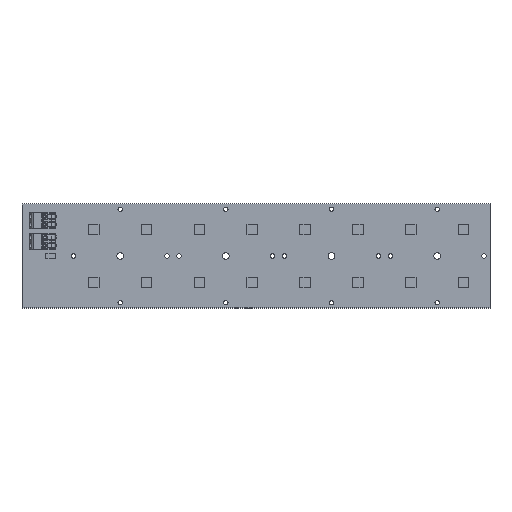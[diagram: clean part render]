
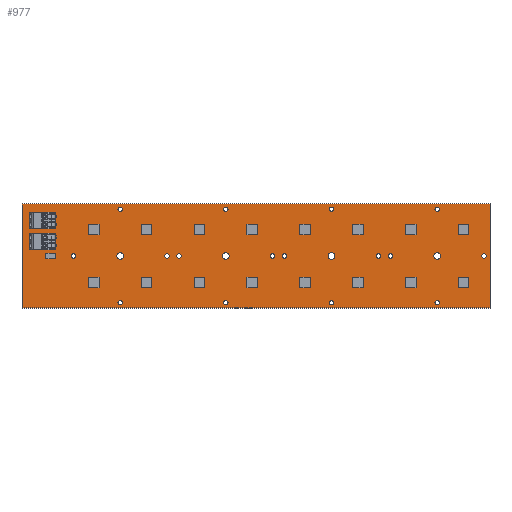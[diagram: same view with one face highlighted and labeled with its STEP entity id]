
A CAD part, top view. The second image highlights one B-rep face of the part: STEP entity #977.
In plain terms, the highlighted planar face has unit normal (0, 0, 1).
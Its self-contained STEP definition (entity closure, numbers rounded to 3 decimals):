
#128 = VERTEX_POINT('',#129);
#129 = CARTESIAN_POINT('',(0.,0.,1.6));
#135 = EDGE_CURVE('',#128,#136,#138,.T.);
#136 = VERTEX_POINT('',#137);
#137 = CARTESIAN_POINT('',(0.,50.,1.6));
#138 = LINE('',#139,#140);
#139 = CARTESIAN_POINT('',(0.,0.,1.6));
#140 = VECTOR('',#141,1.);
#141 = DIRECTION('',(0.,1.,0.));
#166 = EDGE_CURVE('',#136,#167,#169,.T.);
#167 = VERTEX_POINT('',#168);
#168 = CARTESIAN_POINT('',(225.,50.,1.6));
#169 = LINE('',#170,#171);
#170 = CARTESIAN_POINT('',(0.,50.,1.6));
#171 = VECTOR('',#172,1.);
#172 = DIRECTION('',(1.,0.,0.));
#197 = EDGE_CURVE('',#167,#198,#200,.T.);
#198 = VERTEX_POINT('',#199);
#199 = CARTESIAN_POINT('',(225.,0.,1.6));
#200 = LINE('',#201,#202);
#201 = CARTESIAN_POINT('',(225.,50.,1.6));
#202 = VECTOR('',#203,1.);
#203 = DIRECTION('',(0.,-1.,0.));
#228 = EDGE_CURVE('',#198,#128,#229,.T.);
#229 = LINE('',#230,#231);
#230 = CARTESIAN_POINT('',(225.,0.,1.6));
#231 = VECTOR('',#232,1.);
#232 = DIRECTION('',(-1.,0.,0.));
#252 = VERTEX_POINT('',#253);
#253 = CARTESIAN_POINT('',(48.25,2.5,1.6));
#259 = EDGE_CURVE('',#252,#252,#260,.T.);
#260 = CIRCLE('',#261,1.05);
#261 = AXIS2_PLACEMENT_3D('',#262,#263,#264);
#262 = CARTESIAN_POINT('',(47.2,2.5,1.6));
#263 = DIRECTION('',(0.,0.,1.));
#264 = DIRECTION('',(1.,0.,-0.));
#285 = VERTEX_POINT('',#286);
#286 = CARTESIAN_POINT('',(25.75,25.,1.6));
#292 = EDGE_CURVE('',#285,#285,#293,.T.);
#293 = CIRCLE('',#294,1.05);
#294 = AXIS2_PLACEMENT_3D('',#295,#296,#297);
#295 = CARTESIAN_POINT('',(24.7,25.,1.6));
#296 = DIRECTION('',(0.,0.,1.));
#297 = DIRECTION('',(1.,0.,-0.));
#318 = VERTEX_POINT('',#319);
#319 = CARTESIAN_POINT('',(99.05,2.5,1.6));
#325 = EDGE_CURVE('',#318,#318,#326,.T.);
#326 = CIRCLE('',#327,1.05);
#327 = AXIS2_PLACEMENT_3D('',#328,#329,#330);
#328 = CARTESIAN_POINT('',(98.,2.5,1.6));
#329 = DIRECTION('',(0.,0.,1.));
#330 = DIRECTION('',(1.,0.,-0.));
#351 = VERTEX_POINT('',#352);
#352 = CARTESIAN_POINT('',(48.8,25.,1.6));
#358 = EDGE_CURVE('',#351,#351,#359,.T.);
#359 = CIRCLE('',#360,1.6);
#360 = AXIS2_PLACEMENT_3D('',#361,#362,#363);
#361 = CARTESIAN_POINT('',(47.2,25.,1.6));
#362 = DIRECTION('',(0.,0.,1.));
#363 = DIRECTION('',(1.,0.,-0.));
#384 = VERTEX_POINT('',#385);
#385 = CARTESIAN_POINT('',(99.6,25.,1.6));
#391 = EDGE_CURVE('',#384,#384,#392,.T.);
#392 = CIRCLE('',#393,1.6);
#393 = AXIS2_PLACEMENT_3D('',#394,#395,#396);
#394 = CARTESIAN_POINT('',(98.,25.,1.6));
#395 = DIRECTION('',(0.,0.,1.));
#396 = DIRECTION('',(1.,0.,-0.));
#417 = VERTEX_POINT('',#418);
#418 = CARTESIAN_POINT('',(70.75,25.,1.6));
#424 = EDGE_CURVE('',#417,#417,#425,.T.);
#425 = CIRCLE('',#426,1.05);
#426 = AXIS2_PLACEMENT_3D('',#427,#428,#429);
#427 = CARTESIAN_POINT('',(69.7,25.,1.6));
#428 = DIRECTION('',(0.,0.,1.));
#429 = DIRECTION('',(1.,0.,-0.));
#450 = VERTEX_POINT('',#451);
#451 = CARTESIAN_POINT('',(48.25,47.5,1.6));
#457 = EDGE_CURVE('',#450,#450,#458,.T.);
#458 = CIRCLE('',#459,1.05);
#459 = AXIS2_PLACEMENT_3D('',#460,#461,#462);
#460 = CARTESIAN_POINT('',(47.2,47.5,1.6));
#461 = DIRECTION('',(0.,0.,1.));
#462 = DIRECTION('',(1.,0.,-0.));
#483 = VERTEX_POINT('',#484);
#484 = CARTESIAN_POINT('',(76.55,25.,1.6));
#490 = EDGE_CURVE('',#483,#483,#491,.T.);
#491 = CIRCLE('',#492,1.05);
#492 = AXIS2_PLACEMENT_3D('',#493,#494,#495);
#493 = CARTESIAN_POINT('',(75.5,25.,1.6));
#494 = DIRECTION('',(0.,0.,1.));
#495 = DIRECTION('',(1.,0.,-0.));
#516 = VERTEX_POINT('',#517);
#517 = CARTESIAN_POINT('',(99.05,47.5,1.6));
#523 = EDGE_CURVE('',#516,#516,#524,.T.);
#524 = CIRCLE('',#525,1.05);
#525 = AXIS2_PLACEMENT_3D('',#526,#527,#528);
#526 = CARTESIAN_POINT('',(98.,47.5,1.6));
#527 = DIRECTION('',(0.,0.,1.));
#528 = DIRECTION('',(1.,0.,-0.));
#549 = VERTEX_POINT('',#550);
#550 = CARTESIAN_POINT('',(121.55,25.,1.6));
#556 = EDGE_CURVE('',#549,#549,#557,.T.);
#557 = CIRCLE('',#558,1.05);
#558 = AXIS2_PLACEMENT_3D('',#559,#560,#561);
#559 = CARTESIAN_POINT('',(120.5,25.,1.6));
#560 = DIRECTION('',(0.,0.,1.));
#561 = DIRECTION('',(1.,0.,-0.));
#582 = VERTEX_POINT('',#583);
#583 = CARTESIAN_POINT('',(149.85,2.5,1.6));
#589 = EDGE_CURVE('',#582,#582,#590,.T.);
#590 = CIRCLE('',#591,1.05);
#591 = AXIS2_PLACEMENT_3D('',#592,#593,#594);
#592 = CARTESIAN_POINT('',(148.8,2.5,1.6));
#593 = DIRECTION('',(0.,0.,1.));
#594 = DIRECTION('',(1.,0.,-0.));
#615 = VERTEX_POINT('',#616);
#616 = CARTESIAN_POINT('',(127.35,25.,1.6));
#622 = EDGE_CURVE('',#615,#615,#623,.T.);
#623 = CIRCLE('',#624,1.05);
#624 = AXIS2_PLACEMENT_3D('',#625,#626,#627);
#625 = CARTESIAN_POINT('',(126.3,25.,1.6));
#626 = DIRECTION('',(0.,0.,1.));
#627 = DIRECTION('',(1.,0.,-0.));
#648 = VERTEX_POINT('',#649);
#649 = CARTESIAN_POINT('',(200.65,2.5,1.6));
#655 = EDGE_CURVE('',#648,#648,#656,.T.);
#656 = CIRCLE('',#657,1.05);
#657 = AXIS2_PLACEMENT_3D('',#658,#659,#660);
#658 = CARTESIAN_POINT('',(199.6,2.5,1.6));
#659 = DIRECTION('',(0.,0.,1.));
#660 = DIRECTION('',(1.,0.,-0.));
#681 = VERTEX_POINT('',#682);
#682 = CARTESIAN_POINT('',(150.4,25.,1.6));
#688 = EDGE_CURVE('',#681,#681,#689,.T.);
#689 = CIRCLE('',#690,1.6);
#690 = AXIS2_PLACEMENT_3D('',#691,#692,#693);
#691 = CARTESIAN_POINT('',(148.8,25.,1.6));
#692 = DIRECTION('',(0.,0.,1.));
#693 = DIRECTION('',(1.,0.,-0.));
#714 = VERTEX_POINT('',#715);
#715 = CARTESIAN_POINT('',(201.2,25.,1.6));
#721 = EDGE_CURVE('',#714,#714,#722,.T.);
#722 = CIRCLE('',#723,1.6);
#723 = AXIS2_PLACEMENT_3D('',#724,#725,#726);
#724 = CARTESIAN_POINT('',(199.6,25.,1.6));
#725 = DIRECTION('',(0.,0.,1.));
#726 = DIRECTION('',(1.,0.,-0.));
#747 = VERTEX_POINT('',#748);
#748 = CARTESIAN_POINT('',(172.35,25.,1.6));
#754 = EDGE_CURVE('',#747,#747,#755,.T.);
#755 = CIRCLE('',#756,1.05);
#756 = AXIS2_PLACEMENT_3D('',#757,#758,#759);
#757 = CARTESIAN_POINT('',(171.3,25.,1.6));
#758 = DIRECTION('',(0.,0.,1.));
#759 = DIRECTION('',(1.,0.,-0.));
#780 = VERTEX_POINT('',#781);
#781 = CARTESIAN_POINT('',(149.85,47.5,1.6));
#787 = EDGE_CURVE('',#780,#780,#788,.T.);
#788 = CIRCLE('',#789,1.05);
#789 = AXIS2_PLACEMENT_3D('',#790,#791,#792);
#790 = CARTESIAN_POINT('',(148.8,47.5,1.6));
#791 = DIRECTION('',(0.,0.,1.));
#792 = DIRECTION('',(1.,0.,-0.));
#813 = VERTEX_POINT('',#814);
#814 = CARTESIAN_POINT('',(178.15,25.,1.6));
#820 = EDGE_CURVE('',#813,#813,#821,.T.);
#821 = CIRCLE('',#822,1.05);
#822 = AXIS2_PLACEMENT_3D('',#823,#824,#825);
#823 = CARTESIAN_POINT('',(177.1,25.,1.6));
#824 = DIRECTION('',(0.,0.,1.));
#825 = DIRECTION('',(1.,0.,-0.));
#846 = VERTEX_POINT('',#847);
#847 = CARTESIAN_POINT('',(200.65,47.5,1.6));
#853 = EDGE_CURVE('',#846,#846,#854,.T.);
#854 = CIRCLE('',#855,1.05);
#855 = AXIS2_PLACEMENT_3D('',#856,#857,#858);
#856 = CARTESIAN_POINT('',(199.6,47.5,1.6));
#857 = DIRECTION('',(0.,0.,1.));
#858 = DIRECTION('',(1.,0.,-0.));
#879 = VERTEX_POINT('',#880);
#880 = CARTESIAN_POINT('',(223.15,25.,1.6));
#886 = EDGE_CURVE('',#879,#879,#887,.T.);
#887 = CIRCLE('',#888,1.05);
#888 = AXIS2_PLACEMENT_3D('',#889,#890,#891);
#889 = CARTESIAN_POINT('',(222.1,25.,1.6));
#890 = DIRECTION('',(0.,0.,1.));
#891 = DIRECTION('',(1.,0.,-0.));
#977 = ADVANCED_FACE('',(#978,#984,#987,#990,#993,#996,#999,#1002,#1005,
    #1008,#1011,#1014,#1017,#1020,#1023,#1026,#1029,#1032,#1035,#1038,
    #1041),#1044,.F.);
#978 = FACE_BOUND('',#979,.F.);
#979 = EDGE_LOOP('',(#980,#981,#982,#983));
#980 = ORIENTED_EDGE('',*,*,#135,.T.);
#981 = ORIENTED_EDGE('',*,*,#166,.T.);
#982 = ORIENTED_EDGE('',*,*,#197,.T.);
#983 = ORIENTED_EDGE('',*,*,#228,.T.);
#984 = FACE_BOUND('',#985,.F.);
#985 = EDGE_LOOP('',(#986));
#986 = ORIENTED_EDGE('',*,*,#259,.T.);
#987 = FACE_BOUND('',#988,.F.);
#988 = EDGE_LOOP('',(#989));
#989 = ORIENTED_EDGE('',*,*,#292,.T.);
#990 = FACE_BOUND('',#991,.F.);
#991 = EDGE_LOOP('',(#992));
#992 = ORIENTED_EDGE('',*,*,#325,.T.);
#993 = FACE_BOUND('',#994,.F.);
#994 = EDGE_LOOP('',(#995));
#995 = ORIENTED_EDGE('',*,*,#358,.T.);
#996 = FACE_BOUND('',#997,.F.);
#997 = EDGE_LOOP('',(#998));
#998 = ORIENTED_EDGE('',*,*,#391,.T.);
#999 = FACE_BOUND('',#1000,.F.);
#1000 = EDGE_LOOP('',(#1001));
#1001 = ORIENTED_EDGE('',*,*,#424,.T.);
#1002 = FACE_BOUND('',#1003,.F.);
#1003 = EDGE_LOOP('',(#1004));
#1004 = ORIENTED_EDGE('',*,*,#457,.T.);
#1005 = FACE_BOUND('',#1006,.F.);
#1006 = EDGE_LOOP('',(#1007));
#1007 = ORIENTED_EDGE('',*,*,#490,.T.);
#1008 = FACE_BOUND('',#1009,.F.);
#1009 = EDGE_LOOP('',(#1010));
#1010 = ORIENTED_EDGE('',*,*,#523,.T.);
#1011 = FACE_BOUND('',#1012,.F.);
#1012 = EDGE_LOOP('',(#1013));
#1013 = ORIENTED_EDGE('',*,*,#556,.T.);
#1014 = FACE_BOUND('',#1015,.F.);
#1015 = EDGE_LOOP('',(#1016));
#1016 = ORIENTED_EDGE('',*,*,#589,.T.);
#1017 = FACE_BOUND('',#1018,.F.);
#1018 = EDGE_LOOP('',(#1019));
#1019 = ORIENTED_EDGE('',*,*,#622,.T.);
#1020 = FACE_BOUND('',#1021,.F.);
#1021 = EDGE_LOOP('',(#1022));
#1022 = ORIENTED_EDGE('',*,*,#655,.T.);
#1023 = FACE_BOUND('',#1024,.F.);
#1024 = EDGE_LOOP('',(#1025));
#1025 = ORIENTED_EDGE('',*,*,#688,.T.);
#1026 = FACE_BOUND('',#1027,.F.);
#1027 = EDGE_LOOP('',(#1028));
#1028 = ORIENTED_EDGE('',*,*,#721,.T.);
#1029 = FACE_BOUND('',#1030,.F.);
#1030 = EDGE_LOOP('',(#1031));
#1031 = ORIENTED_EDGE('',*,*,#754,.T.);
#1032 = FACE_BOUND('',#1033,.F.);
#1033 = EDGE_LOOP('',(#1034));
#1034 = ORIENTED_EDGE('',*,*,#787,.T.);
#1035 = FACE_BOUND('',#1036,.F.);
#1036 = EDGE_LOOP('',(#1037));
#1037 = ORIENTED_EDGE('',*,*,#820,.T.);
#1038 = FACE_BOUND('',#1039,.F.);
#1039 = EDGE_LOOP('',(#1040));
#1040 = ORIENTED_EDGE('',*,*,#853,.T.);
#1041 = FACE_BOUND('',#1042,.F.);
#1042 = EDGE_LOOP('',(#1043));
#1043 = ORIENTED_EDGE('',*,*,#886,.T.);
#1044 = PLANE('',#1045);
#1045 = AXIS2_PLACEMENT_3D('',#1046,#1047,#1048);
#1046 = CARTESIAN_POINT('',(112.5,25.,1.6));
#1047 = DIRECTION('',(-0.,-0.,-1.));
#1048 = DIRECTION('',(-1.,0.,0.));
